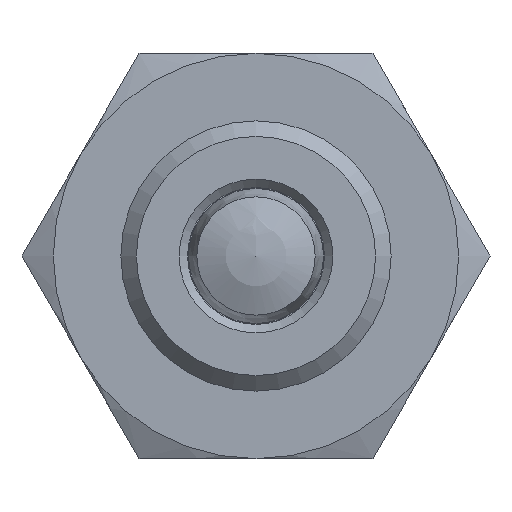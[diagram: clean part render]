
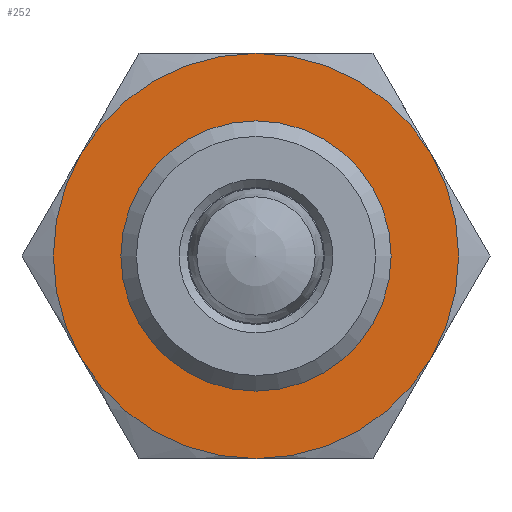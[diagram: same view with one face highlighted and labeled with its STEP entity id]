
A CAD part, left-side view. The second image highlights one B-rep face of the part: STEP entity #252.
In plain terms, the highlighted planar face has unit normal (-1, 0, 0) as drawn and (1, 0, 0) by its records, which use the part's own axes.
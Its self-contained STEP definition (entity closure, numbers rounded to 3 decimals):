
#252 = ADVANCED_FACE( '', ( #408, #409 ), #410, .F. );
#408 = FACE_BOUND( '', #588, .T. );
#409 = FACE_OUTER_BOUND( '', #589, .T. );
#410 = PLANE( '', #590 );
#588 = EDGE_LOOP( '', ( #892 ) );
#589 = EDGE_LOOP( '', ( #893, #894, #895, #896, #897, #898 ) );
#590 = AXIS2_PLACEMENT_3D( '', #899, #900, #901 );
#892 = ORIENTED_EDGE( '', *, *, #1094, .F. );
#893 = ORIENTED_EDGE( '', *, *, #1095, .T. );
#894 = ORIENTED_EDGE( '', *, *, #1096, .T. );
#895 = ORIENTED_EDGE( '', *, *, #1097, .T. );
#896 = ORIENTED_EDGE( '', *, *, #1098, .T. );
#897 = ORIENTED_EDGE( '', *, *, #1099, .T. );
#898 = ORIENTED_EDGE( '', *, *, #1100, .T. );
#899 = CARTESIAN_POINT( '', ( 8., 12., 0. ) );
#900 = DIRECTION( '', ( -1., 0., 0. ) );
#901 = DIRECTION( '', ( 0., 0., 1. ) );
#1094 = EDGE_CURVE( '', #1252, #1252, #1253, .T. );
#1095 = EDGE_CURVE( '', #1254, #1255, #1256, .T. );
#1096 = EDGE_CURVE( '', #1255, #1234, #1257, .T. );
#1097 = EDGE_CURVE( '', #1234, #1225, #1258, .T. );
#1098 = EDGE_CURVE( '', #1225, #1246, #1259, .T. );
#1099 = EDGE_CURVE( '', #1246, #1260, #1261, .T. );
#1100 = EDGE_CURVE( '', #1260, #1254, #1262, .T. );
#1225 = VERTEX_POINT( '', #1730 );
#1234 = VERTEX_POINT( '', #1760 );
#1246 = VERTEX_POINT( '', #1798 );
#1252 = VERTEX_POINT( '', #1828 );
#1253 = CIRCLE( '', #1829, 8. );
#1254 = VERTEX_POINT( '', #1830 );
#1255 = VERTEX_POINT( '', #1831 );
#1256 = CIRCLE( '', #1832, 12. );
#1257 = CIRCLE( '', #1833, 12. );
#1258 = CIRCLE( '', #1834, 12. );
#1259 = CIRCLE( '', #1835, 12. );
#1260 = VERTEX_POINT( '', #1836 );
#1261 = CIRCLE( '', #1837, 12. );
#1262 = CIRCLE( '', #1838, 12. );
#1730 = CARTESIAN_POINT( '', ( 8., 0., 12. ) );
#1760 = CARTESIAN_POINT( '', ( 8., 10.392, 6. ) );
#1798 = CARTESIAN_POINT( '', ( 8., -10.392, 6. ) );
#1828 = CARTESIAN_POINT( '', ( 8., 0., -8. ) );
#1829 = AXIS2_PLACEMENT_3D( '', #2063, #2064, #2065 );
#1830 = CARTESIAN_POINT( '', ( 8., 0., -12. ) );
#1831 = CARTESIAN_POINT( '', ( 8., 10.392, -6. ) );
#1832 = AXIS2_PLACEMENT_3D( '', #2066, #2067, #2068 );
#1833 = AXIS2_PLACEMENT_3D( '', #2069, #2070, #2071 );
#1834 = AXIS2_PLACEMENT_3D( '', #2072, #2073, #2074 );
#1835 = AXIS2_PLACEMENT_3D( '', #2075, #2076, #2077 );
#1836 = CARTESIAN_POINT( '', ( 8., -10.392, -6. ) );
#1837 = AXIS2_PLACEMENT_3D( '', #2078, #2079, #2080 );
#1838 = AXIS2_PLACEMENT_3D( '', #2081, #2082, #2083 );
#2063 = CARTESIAN_POINT( '', ( 8., 0., 0. ) );
#2064 = DIRECTION( '', ( 1., 0., 0. ) );
#2065 = DIRECTION( '', ( 0., 0., -1. ) );
#2066 = CARTESIAN_POINT( '', ( 8., 0., 0. ) );
#2067 = DIRECTION( '', ( 1., 0., 0. ) );
#2068 = DIRECTION( '', ( 0., 0., -1. ) );
#2069 = CARTESIAN_POINT( '', ( 8., 0., 0. ) );
#2070 = DIRECTION( '', ( 1., 0., 0. ) );
#2071 = DIRECTION( '', ( 0., 0., -1. ) );
#2072 = CARTESIAN_POINT( '', ( 8., 0., 0. ) );
#2073 = DIRECTION( '', ( 1., 0., 0. ) );
#2074 = DIRECTION( '', ( 0., 0., -1. ) );
#2075 = CARTESIAN_POINT( '', ( 8., 0., 0. ) );
#2076 = DIRECTION( '', ( 1., 0., 0. ) );
#2077 = DIRECTION( '', ( 0., 0., -1. ) );
#2078 = CARTESIAN_POINT( '', ( 8., 0., 0. ) );
#2079 = DIRECTION( '', ( 1., 0., 0. ) );
#2080 = DIRECTION( '', ( 0., 0., -1. ) );
#2081 = CARTESIAN_POINT( '', ( 8., 0., 0. ) );
#2082 = DIRECTION( '', ( 1., 0., 0. ) );
#2083 = DIRECTION( '', ( 0., 0., -1. ) );
